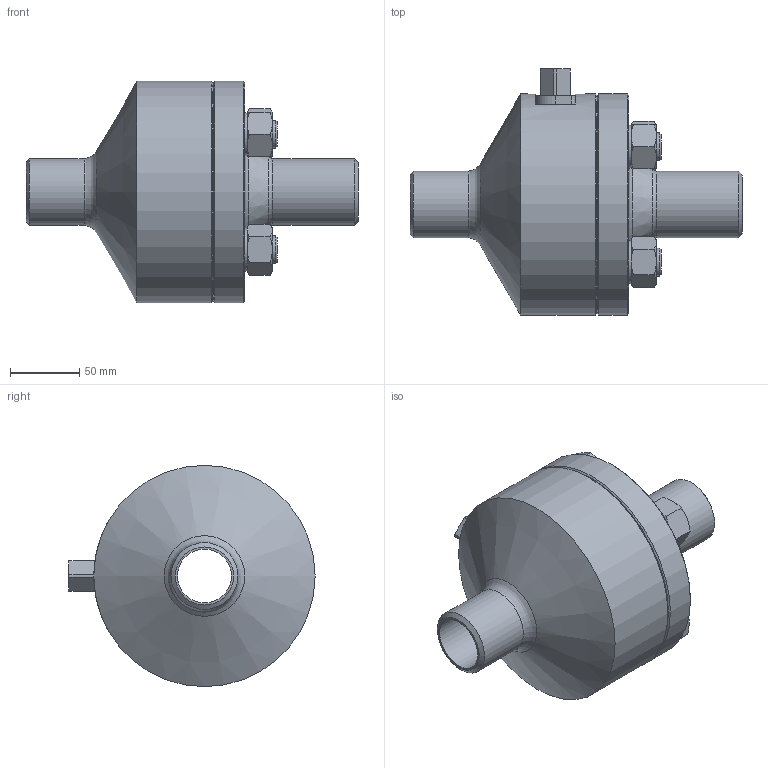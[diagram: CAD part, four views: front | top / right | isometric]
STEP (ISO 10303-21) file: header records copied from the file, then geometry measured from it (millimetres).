
FILE_DESCRIPTION((''),'2;1');
FILE_NAME('C:\Users\Bartek\Desktop\Nowy folder (2)\Nowy folder (22)\WK5bc DN40 PN100 _Substitute_1.stp','2024-09-16T15:32:33',('Bartek'),(''),'Autodesk Inventor 2012','Autodesk Inventor 2012','');
FILE_SCHEMA(('AUTOMOTIVE_DESIGN { 1 0 10303 214 1 1 1 1 }'));
Length unit declared in the file: millimetre
Products named in the file (1): WK5bc DN40 PN100 _Substitute_1
Bounding box: 240 x 178 x 160 mm (x, y, z)
Volume: 1905513.4 mm3; surface area: 163274.5 mm2
Topology: 1 solids, 1 shells, 137 faces, 295 edges, 177 vertices
Faces by surface type: cone 59, plane 53, cylinder 22, torus 3
Full cylindrical faces by diameter (mm): 20 x4, 31 x4, 39 x1, 48.3 x2, 100 x1, 160 x2
Entity records: 3573 total; most frequent: CARTESIAN_POINT 766, DIRECTION 550, ORIENTED_EDGE 526, EDGE_CURVE 263, AXIS2_PLACEMENT_3D 245, EDGE_LOOP 184, VERTEX_POINT 173, STYLED_ITEM 138
